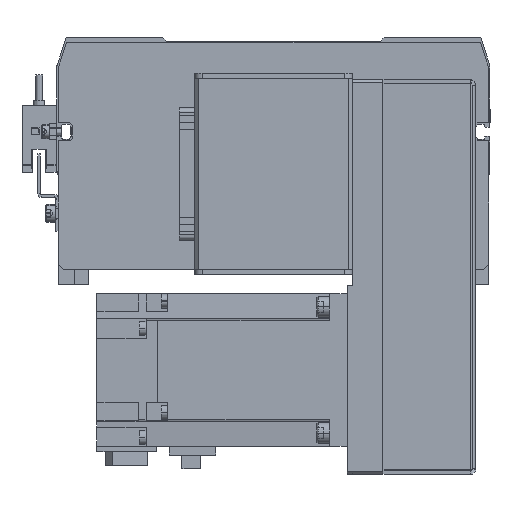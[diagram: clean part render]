
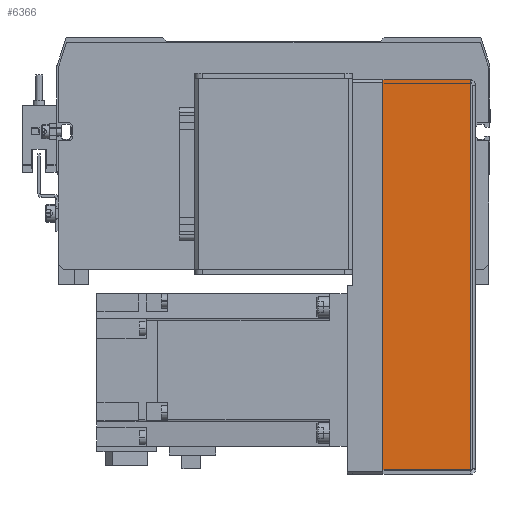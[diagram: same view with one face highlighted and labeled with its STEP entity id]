
A CAD part, front view. The second image highlights one B-rep face of the part: STEP entity #6366.
In plain terms, the highlighted planar face has unit normal (0, -1, 0).
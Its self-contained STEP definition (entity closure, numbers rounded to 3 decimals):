
#1903 = DIRECTION ( 'NONE',  ( -1., 0., 0. ) ) ;
#2668 = EDGE_CURVE ( 'NONE', #29813, #37504, #26529, .T. ) ;
#5516 = DIRECTION ( 'NONE',  ( 0., 1., 0. ) ) ;
#6366 = ADVANCED_FACE ( 'NONE', ( #17405 ), #15224, .F. ) ;
#7488 = VECTOR ( 'NONE', #34799, 1000. ) ;
#7824 = CARTESIAN_POINT ( 'NONE',  ( 0.737, -14.163, 20.673 ) ) ;
#8759 = VECTOR ( 'NONE', #17435, 1000. ) ;
#12617 = AXIS2_PLACEMENT_3D ( 'NONE', #22363, #5516, #1903 ) ;
#15224 = PLANE ( 'NONE',  #12617 ) ;
#15264 = LINE ( 'NONE', #17970, #7488 ) ;
#17405 = FACE_OUTER_BOUND ( 'NONE', #36354, .T. ) ;
#17435 = DIRECTION ( 'NONE',  ( 0., 0., 1. ) ) ;
#17704 = EDGE_CURVE ( 'NONE', #21423, #23966, #15264, .T. ) ;
#17970 = CARTESIAN_POINT ( 'NONE',  ( 0.737, -14.163, 18.873 ) ) ;
#21032 = CARTESIAN_POINT ( 'NONE',  ( 35., -14.163, 18.873 ) ) ;
#21423 = VERTEX_POINT ( 'NONE', #41474 ) ;
#22363 = CARTESIAN_POINT ( 'NONE',  ( 0., -14.163, 0. ) ) ;
#23966 = VERTEX_POINT ( 'NONE', #21032 ) ;
#24031 = EDGE_CURVE ( 'NONE', #23966, #37504, #40633, .T. ) ;
#26529 = LINE ( 'NONE', #35229, #30693 ) ;
#28231 = DIRECTION ( 'NONE',  ( 1., 0., 0. ) ) ;
#28664 = VECTOR ( 'NONE', #35811, 1000. ) ;
#29813 = VERTEX_POINT ( 'NONE', #32505 ) ;
#30693 = VECTOR ( 'NONE', #28231, 1000. ) ;
#31280 = CARTESIAN_POINT ( 'NONE',  ( 35., -14.163, 20.673 ) ) ;
#31797 = CARTESIAN_POINT ( 'NONE',  ( 35., -14.163, -134.327 ) ) ;
#32123 = LINE ( 'NONE', #7824, #8759 ) ;
#32503 = ORIENTED_EDGE ( 'NONE', *, *, #17704, .F. ) ;
#32505 = CARTESIAN_POINT ( 'NONE',  ( 0.737, -14.163, -134.327 ) ) ;
#34378 = ORIENTED_EDGE ( 'NONE', *, *, #24031, .F. ) ;
#34799 = DIRECTION ( 'NONE',  ( 1., 0., 0. ) ) ;
#35141 = ORIENTED_EDGE ( 'NONE', *, *, #2668, .T. ) ;
#35229 = CARTESIAN_POINT ( 'NONE',  ( 0.737, -14.163, -134.327 ) ) ;
#35508 = EDGE_CURVE ( 'NONE', #29813, #21423, #32123, .T. ) ;
#35811 = DIRECTION ( 'NONE',  ( 0., 0., -1. ) ) ;
#36354 = EDGE_LOOP ( 'NONE', ( #42373, #35141, #34378, #32503 ) ) ;
#37504 = VERTEX_POINT ( 'NONE', #31797 ) ;
#40633 = LINE ( 'NONE', #31280, #28664 ) ;
#41474 = CARTESIAN_POINT ( 'NONE',  ( 0.737, -14.163, 18.873 ) ) ;
#42373 = ORIENTED_EDGE ( 'NONE', *, *, #35508, .F. ) ;
